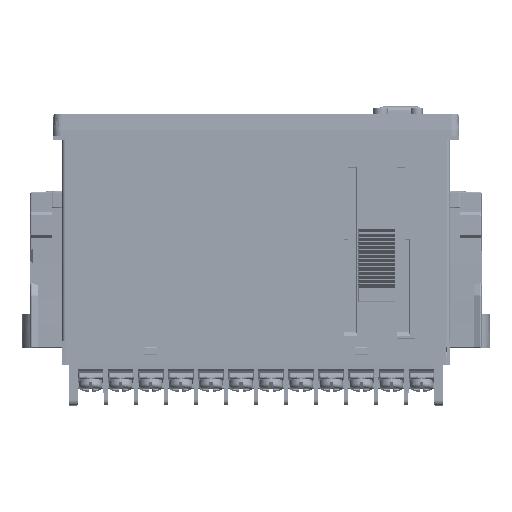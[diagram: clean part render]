
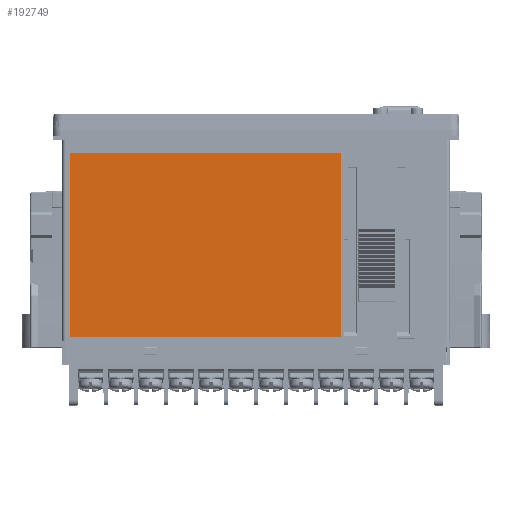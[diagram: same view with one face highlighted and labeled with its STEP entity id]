
A CAD part, left-side view. The second image highlights one B-rep face of the part: STEP entity #192749.
In plain terms, the highlighted planar face has unit normal (-1, 0, 0).
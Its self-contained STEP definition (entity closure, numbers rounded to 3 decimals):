
#19965 = EDGE_LOOP ( 'NONE', ( #46210, #251120, #347155, #383105 ) ) ;
#20148 = EDGE_CURVE ( 'NONE', #342481, #407373, #193761, .T. ) ;
#20650 = CARTESIAN_POINT ( 'NONE',  ( -22.225, -20., -49.4 ) ) ;
#46210 = ORIENTED_EDGE ( 'NONE', *, *, #501503, .T. ) ;
#56204 = LINE ( 'NONE', #511735, #477570 ) ;
#73064 = PLANE ( 'NONE',  #242425 ) ;
#88466 = VECTOR ( 'NONE', #230266, 1000. ) ;
#119543 = DIRECTION ( 'NONE',  ( 0., 1., 0. ) ) ;
#139528 = VERTEX_POINT ( 'NONE', #20650 ) ;
#150611 = CARTESIAN_POINT ( 'NONE',  ( -22.225, 44., -49.4 ) ) ;
#152730 = DIRECTION ( 'NONE',  ( 0., -1., 0. ) ) ;
#155191 = VERTEX_POINT ( 'NONE', #194445 ) ;
#156932 = CARTESIAN_POINT ( 'NONE',  ( -22.225, 44., -49.4 ) ) ;
#168948 = VECTOR ( 'NONE', #119543, 1000. ) ;
#192749 = ADVANCED_FACE ( 'NONE', ( #192860 ), #73064, .T. ) ;
#192860 = FACE_OUTER_BOUND ( 'NONE', #19965, .T. ) ;
#193761 = LINE ( 'NONE', #150611, #88466 ) ;
#194445 = CARTESIAN_POINT ( 'NONE',  ( -22.225, -20., -5.9 ) ) ;
#230266 = DIRECTION ( 'NONE',  ( 0., 0., -1. ) ) ;
#239024 = DIRECTION ( 'NONE',  ( 0., 0., 1. ) ) ;
#242425 = AXIS2_PLACEMENT_3D ( 'NONE', #350127, #389963, #152730 ) ;
#251120 = ORIENTED_EDGE ( 'NONE', *, *, #372266, .T. ) ;
#274391 = LINE ( 'NONE', #396524, #168948 ) ;
#304401 = VECTOR ( 'NONE', #239024, 1000. ) ;
#314338 = DIRECTION ( 'NONE',  ( 0., -1., 0. ) ) ;
#316904 = CARTESIAN_POINT ( 'NONE',  ( -22.225, -20., -49.4 ) ) ;
#342481 = VERTEX_POINT ( 'NONE', #344228 ) ;
#344228 = CARTESIAN_POINT ( 'NONE',  ( -22.225, 44., -5.9 ) ) ;
#347155 = ORIENTED_EDGE ( 'NONE', *, *, #406876, .T. ) ;
#350127 = CARTESIAN_POINT ( 'NONE',  ( -22.225, -20., -49.4 ) ) ;
#372266 = EDGE_CURVE ( 'NONE', #139528, #155191, #409727, .T. ) ;
#383105 = ORIENTED_EDGE ( 'NONE', *, *, #20148, .T. ) ;
#389963 = DIRECTION ( 'NONE',  ( -1., 0., 0. ) ) ;
#396524 = CARTESIAN_POINT ( 'NONE',  ( -22.225, 44., -5.9 ) ) ;
#406876 = EDGE_CURVE ( 'NONE', #155191, #342481, #274391, .T. ) ;
#407373 = VERTEX_POINT ( 'NONE', #156932 ) ;
#409727 = LINE ( 'NONE', #316904, #304401 ) ;
#477570 = VECTOR ( 'NONE', #314338, 1000. ) ;
#501503 = EDGE_CURVE ( 'NONE', #407373, #139528, #56204, .T. ) ;
#511735 = CARTESIAN_POINT ( 'NONE',  ( -22.225, 44., -49.4 ) ) ;
